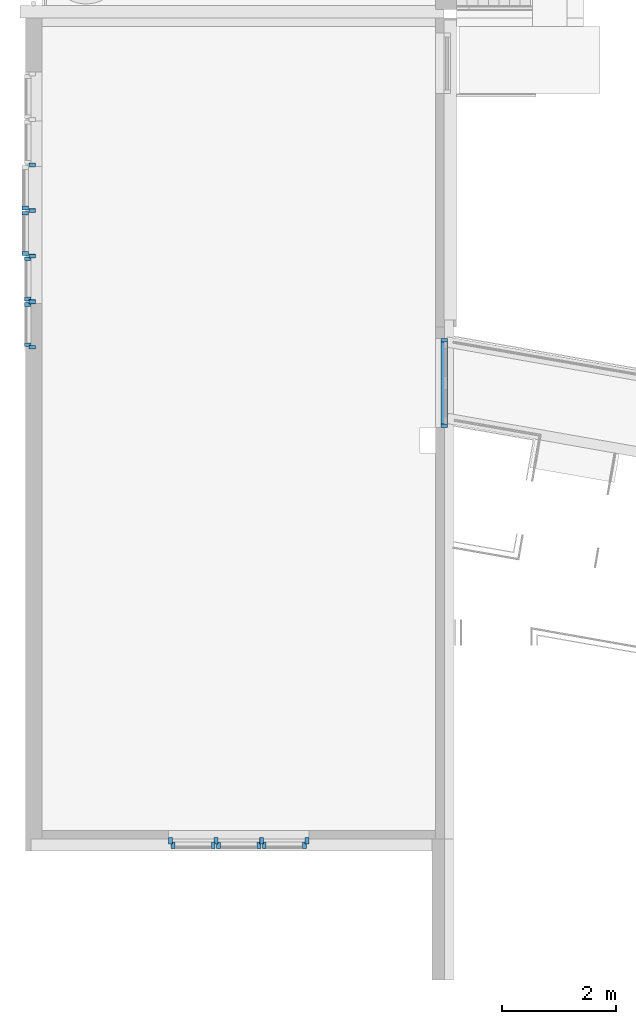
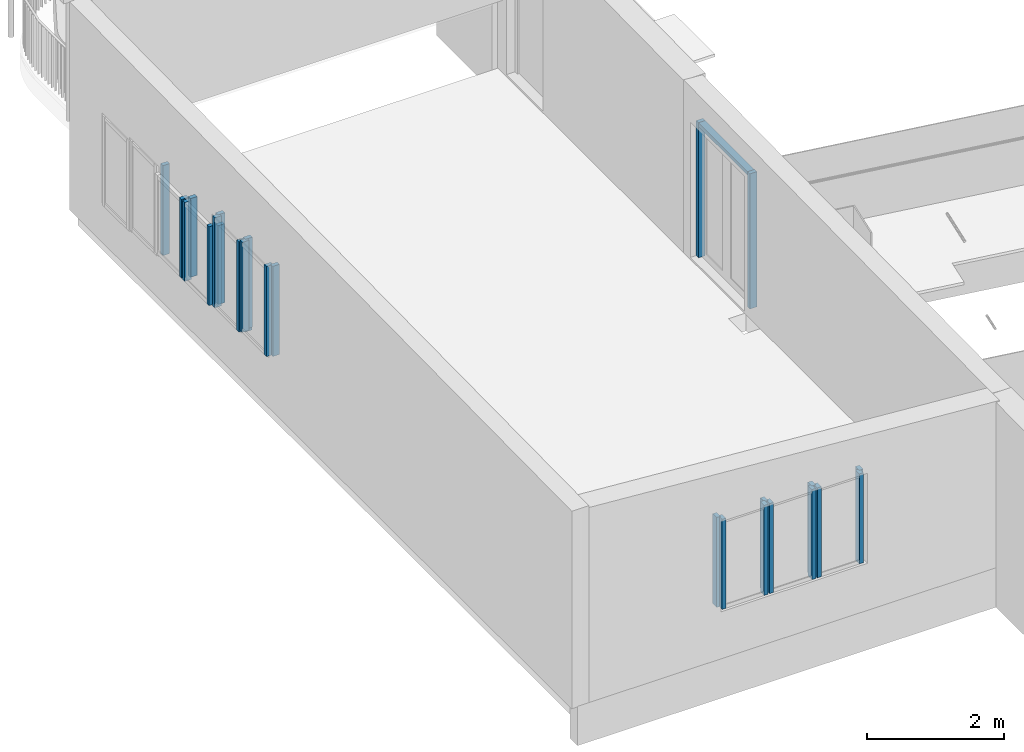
# One storey, part 1 of 9: 30 members, 16 elements without a shape of their own.
"""IFC2X3 building model written with IfcOpenShell, lengths in millimetres."""

import ifcopenshell
import ifcopenshell.guid

model = None  # the IFC model being written
_history = None  # IfcOwnerHistory: only IFC2X3 demands one
_inside = {}  # id of a spatial element -> (the spatial element, [elements in it])
_under = {}  # id of a project, library or spatial element -> (it, [spatial elements below it])
_declared = {}  # id of a project -> (the project, [libraries it declares])
_typed = {}  # id of a type object -> (the type object, [elements of that type])
_made_of = {}  # id of a material, layer set ... -> (it, [elements and type objects made of it])


def new_model(schema):
    """Start an empty IFC model of exactly this schema.

    Asked for "IFC4X3", IfcOpenShell would pick the latest addendum, in which some entities
    have other attributes; the version numbers below select the first issue.
    IFC2X3 requires an IfcOwnerHistory on every rooted entity: one is made here for all.
    """
    global model, _history
    if schema == "IFC4X3":
        model = ifcopenshell.file(schema_version=(4, 3, 0, 0))
    else:
        model = ifcopenshell.file(schema=schema)
    _inside.clear()
    _under.clear()
    _declared.clear()
    _typed.clear()
    _made_of.clear()
    _history = None
    if model.schema == "IFC2X3":
        org = make("IfcOrganization", Name="unknown")
        user = make(
            "IfcPersonAndOrganization",
            ThePerson=make("IfcPerson", FamilyName="unknown"),
            TheOrganization=org,
        )
        app = make(
            "IfcApplication",
            ApplicationDeveloper=org,
            Version="unknown",
            ApplicationFullName="unknown",
            ApplicationIdentifier="unknown",
        )
        _history = make(
            "IfcOwnerHistory",
            OwningUser=user,
            OwningApplication=app,
            ChangeAction="ADDED",
            CreationDate=0,
        )
    return model


def make(cls, **values):
    """One entity of the class cls with the attributes given. An attribute that is None is left unset."""
    return model.create_entity(
        cls, **{name: value for name, value in values.items() if value is not None}
    )


def entity(cls, *values):
    """Any entity or typed value of the class cls, its attributes in the order of the schema. None: left unset."""
    e = model.create_entity(cls)
    for i, value in enumerate(values):
        if value is not None:
            e[i] = value
    return e


def rooted(cls, **values):
    """An entity with a GlobalId (a new one), such as an element, a storey or a relation."""
    return make(cls, GlobalId=ifcopenshell.guid.new(), OwnerHistory=_history, **values)


def si_unit(unit_type, name, prefix=None):
    """IfcSIUnit, for example si_unit("LENGTHUNIT", "METRE", prefix="MILLI")."""
    return make("IfcSIUnit", UnitType=unit_type, Prefix=prefix, Name=name)


def converted_unit(unit_type, name, factor, base, dimensions=None, offset=None):
    """IfcConversionBasedUnit, such as the inch: factor (a typed value) times the base unit."""
    return make(
        "IfcConversionBasedUnit"
        if offset is None
        else "IfcConversionBasedUnitWithOffset",
        ConversionOffset=offset,
        Dimensions=None
        if dimensions is None
        else entity("IfcDimensionalExponents", *dimensions),
        UnitType=unit_type,
        Name=name,
        ConversionFactor=make(
            "IfcMeasureWithUnit", ValueComponent=factor, UnitComponent=base
        ),
    )


def derived_unit(unit_type, elements):
    """IfcDerivedUnit: a product of units, each with its exponent."""
    return make(
        "IfcDerivedUnit",
        Elements=[
            make("IfcDerivedUnitElement", Unit=unit, Exponent=power)
            for unit, power in elements
        ],
        UnitType=unit_type,
    )


def assignment(units):
    """IfcUnitAssignment: the units of a project."""
    return None if units is None else make("IfcUnitAssignment", Units=units)


def point(xyz):
    """IfcCartesianPoint."""
    return None if xyz is None else make("IfcCartesianPoint", Coordinates=xyz)


def direction(xyz):
    """IfcDirection."""
    return None if xyz is None else make("IfcDirection", DirectionRatios=xyz)


def frame(location, z_axis=None, x_axis=None):
    """IfcAxis2Placement3D, a coordinate frame: its origin and axes. An axis left out is left unset."""
    return make(
        "IfcAxis2Placement3D",
        Location=point(location),
        Axis=direction(z_axis),
        RefDirection=direction(x_axis),
    )


def frame_2d(location, x_axis=None):
    """IfcAxis2Placement2D, a coordinate frame in the plane: its origin and x axis."""
    return make(
        "IfcAxis2Placement2D", Location=point(location), RefDirection=direction(x_axis)
    )


def origin():
    """The frame at (0, 0, 0) with its axes left unset."""
    return frame((0.0, 0.0, 0.0))


def origin_2d_with_axis():
    """The frame at (0, 0) in the plane with the x axis (1, 0) written out."""
    return frame_2d((0.0, 0.0), x_axis=(1.0, 0.0))


def place(relative_to, where):
    """IfcLocalPlacement: puts the frame where relative to a parent placement (None: the world)."""
    return make(
        "IfcLocalPlacement", PlacementRelTo=relative_to, RelativePlacement=where
    )


def context(
    kind, dimensions, precision=None, world=None, true_north=None, identifier=None
):
    """IfcGeometricRepresentationContext, for example the 3D "Model" context."""
    return make(
        "IfcGeometricRepresentationContext",
        ContextIdentifier=identifier,
        ContextType=kind,
        CoordinateSpaceDimension=dimensions,
        Precision=precision,
        WorldCoordinateSystem=world,
        TrueNorth=true_north,
    )


def subcontext(parent, identifier, kind, view, scale=None):
    """IfcGeometricRepresentationSubContext, for example "Body" below "Model"."""
    return make(
        "IfcGeometricRepresentationSubContext",
        ContextIdentifier=identifier,
        ContextType=kind,
        ParentContext=parent,
        TargetScale=scale,
        TargetView=view,
    )


def project(units=None, contexts=None):
    """IfcProject with its units and contexts."""
    return rooted(
        "IfcProject",
        Name="project",
        RepresentationContexts=contexts,
        UnitsInContext=assignment(units),
    )


def spatial(cls, under=None, at=None, **own):
    """A site, building, storey or space (cls), placed at a placement, below another one or the project."""
    s = rooted(cls, ObjectPlacement=at, **own)
    if under is not None:
        _under.setdefault(under.id(), (under, []))[1].append(s)
    return s


def polyline(points):
    """IfcPolyline through the points."""
    return make("IfcPolyline", Points=[point(p) for p in points])


def profile(cls, at=None, kind="AREA", **sizes):
    """A parametric profile (cls). Its sizes go by their IFC names, for example OverallWidth=200.0."""
    return make(cls, ProfileType=kind, Position=at, **sizes)


def rectangle(**sizes):
    """IfcRectangleProfileDef."""
    return profile("IfcRectangleProfileDef", **sizes)


def outline(outer, holes=None, kind="AREA"):
    """IfcArbitraryClosedProfileDef: a profile drawn as a closed curve; with holes, ...WithVoids."""
    if holes is None:
        return make("IfcArbitraryClosedProfileDef", ProfileType=kind, OuterCurve=outer)
    return make(
        "IfcArbitraryProfileDefWithVoids",
        ProfileType=kind,
        OuterCurve=outer,
        InnerCurves=holes,
    )


def extrude(swept, where, along, depth):
    """IfcExtrudedAreaSolid: the profile swept, set in the frame where, extruded along a direction by depth."""
    return make(
        "IfcExtrudedAreaSolid",
        SweptArea=swept,
        Position=where,
        ExtrudedDirection=direction(along),
        Depth=depth,
    )


def shape(context_of_items, identifier, shape_type, items):
    """IfcShapeRepresentation: the items that make up one representation, for example the "Body"."""
    return make(
        "IfcShapeRepresentation",
        ContextOfItems=context_of_items,
        RepresentationIdentifier=identifier,
        RepresentationType=shape_type,
        Items=items,
    )


def source(mapping_origin, context_of_items, identifier, shape_type, items):
    """IfcRepresentationMap: a shape defined once, which mapped items show again and again."""
    return make(
        "IfcRepresentationMap",
        MappingOrigin=mapping_origin,
        MappedRepresentation=shape(context_of_items, identifier, shape_type, items),
    )


def transform(
    local_origin,
    x_axis=None,
    y_axis=None,
    z_axis=None,
    scale=None,
    scale2=None,
    scale3=None,
    uniform=True,
):
    """IfcCartesianTransformationOperator3D, or its non-uniform kind. x_axis, y_axis, z_axis: its Axis1, 2, 3."""
    if uniform:
        return make(
            "IfcCartesianTransformationOperator3D",
            Axis1=direction(x_axis),
            Axis2=direction(y_axis),
            LocalOrigin=point(local_origin),
            Scale=scale,
            Axis3=direction(z_axis),
        )
    return make(
        "IfcCartesianTransformationOperator3DnonUniform",
        Axis1=direction(x_axis),
        Axis2=direction(y_axis),
        LocalOrigin=point(local_origin),
        Scale=scale,
        Axis3=direction(z_axis),
        Scale2=scale2,
        Scale3=scale3,
    )


def mapped(mapping_source, mapping_target):
    """IfcMappedItem: shows the shape of a source again, moved by a transform."""
    return make(
        "IfcMappedItem", MappingSource=mapping_source, MappingTarget=mapping_target
    )


def material(Name=None, Category=None):
    """IfcMaterial."""
    return make("IfcMaterial", Name=Name, Category=Category)


def made_of(thing, what):
    """Note that an element or type object is made of a material, layer set ...; save() writes the relation."""
    if what is not None:
        _made_of.setdefault(what.id(), (what, []))[1].append(thing)
    return thing


def type_object(cls, material=None, **own):
    """A type object (cls), such as IfcWallType, which elements share."""
    return made_of(rooted(cls, **own), material)


def type_shapes(of_type, sources):
    """Give a type object the sources (RepresentationMaps) that its elements show as mapped items."""
    of_type.RepresentationMaps = sources


def element(
    cls,
    number,
    at=None,
    inside=None,
    cuts=None,
    type_object=None,
    material=None,
    context=None,
    identifier="Body",
    shape_type=None,
    held_by="IfcProductDefinitionShape",
    body=None,
    shapes=None,
    **own,
):
    """One element of the class cls, such as IfcWall. Its Tag is "e" and its number.

    at: its placement. inside: the storey or other place that contains it. cuts: it is an
    opening in that element (IfcRelVoidsElement). A single representation is given by context,
    identifier, shape_type and body (its items); several are given by shapes. held_by: the class
    of the entity that holds the representations. save() writes the other relations.
    """
    e = rooted(cls, Tag="e%d" % number, ObjectPlacement=at, **own)
    if body is not None:
        shapes = [shape(context, identifier, shape_type, body)]
    if shapes is not None:
        e.Representation = make(held_by, Representations=shapes)
    if inside is not None:
        _inside.setdefault(inside.id(), (inside, []))[1].append(e)
    if cuts is not None:
        rooted(
            "IfcRelVoidsElement", RelatingBuildingElement=cuts, RelatedOpeningElement=e
        )
    if type_object is not None:
        _typed.setdefault(type_object.id(), (type_object, []))[1].append(e)
    return made_of(e, material)


def aggregate(whole, parts):
    """IfcRelAggregates: a whole, such as a stair, and the parts it consists of."""
    return rooted("IfcRelAggregates", RelatingObject=whole, RelatedObjects=parts)


def save(model, path):
    """Write the relations noted so far, then the file.

    IfcRelAggregates (storeys below a building ...), IfcRelContainedInSpatialStructure (elements
    in a storey), IfcRelDefinesByType, IfcRelAssociatesMaterial and IfcRelDeclares: one each for
    every whole, place, type object, material and project.
    """
    for whole, parts in _under.values():
        aggregate(whole, parts)
    for where, things in _inside.values():
        rooted(
            "IfcRelContainedInSpatialStructure",
            RelatedElements=things,
            RelatingStructure=where,
        )
    for kind, things in _typed.values():
        rooted("IfcRelDefinesByType", RelatedObjects=things, RelatingType=kind)
    for what, things in _made_of.values():
        rooted("IfcRelAssociatesMaterial", RelatedObjects=things, RelatingMaterial=what)
    for by, libraries in _declared.values():
        rooted("IfcRelDeclares", RelatingContext=by, RelatedDefinitions=libraries)
    model.write(path)


model = new_model("IFC2X3")

# Units and contexts
model_context = context("Model", 3, precision=0.01, world=origin(), true_north=direction((6.12303176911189e-17, 1.0)))
body_context = subcontext(model_context, "Body", "Model", "MODEL_VIEW")
ifc_project = project(units=[si_unit("LENGTHUNIT", "METRE", prefix="MILLI"), si_unit("AREAUNIT", "SQUARE_METRE"), si_unit("VOLUMEUNIT", "CUBIC_METRE"), converted_unit("PLANEANGLEUNIT", "DEGREE", entity("IfcRatioMeasure", 0.0174532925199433), si_unit("PLANEANGLEUNIT", "RADIAN"), dimensions=[0, 0, 0, 0, 0, 0, 0]), si_unit("MASSUNIT", "GRAM", prefix="KILO"), derived_unit("MASSDENSITYUNIT", [(si_unit("MASSUNIT", "GRAM", prefix="KILO"), 1), (si_unit("LENGTHUNIT", "METRE"), -3)]), si_unit("TIMEUNIT", "SECOND"), si_unit("FREQUENCYUNIT", "HERTZ"), si_unit("THERMODYNAMICTEMPERATUREUNIT", "DEGREE_CELSIUS"), derived_unit("THERMALTRANSMITTANCEUNIT", [(si_unit("MASSUNIT", "GRAM", prefix="KILO"), 1), (si_unit("THERMODYNAMICTEMPERATUREUNIT", "KELVIN"), -1), (si_unit("TIMEUNIT", "SECOND"), -3)]), derived_unit("VOLUMETRICFLOWRATEUNIT", [(si_unit("LENGTHUNIT", "METRE"), 3), (si_unit("TIMEUNIT", "SECOND"), -1)]), si_unit("ELECTRICCURRENTUNIT", "AMPERE"), si_unit("ELECTRICVOLTAGEUNIT", "VOLT"), si_unit("POWERUNIT", "WATT"), si_unit("FORCEUNIT", "NEWTON", prefix="KILO"), si_unit("ILLUMINANCEUNIT", "LUX"), si_unit("LUMINOUSFLUXUNIT", "LUMEN"), si_unit("LUMINOUSINTENSITYUNIT", "CANDELA"), derived_unit("USERDEFINED", [(si_unit("MASSUNIT", "GRAM", prefix="KILO"), -1), (si_unit("LENGTHUNIT", "METRE"), -2), (si_unit("TIMEUNIT", "SECOND"), 3), (si_unit("LUMINOUSFLUXUNIT", "LUMEN"), 1)]), derived_unit("LINEARVELOCITYUNIT", [(si_unit("LENGTHUNIT", "METRE"), 1), (si_unit("TIMEUNIT", "SECOND"), -1)]), si_unit("PRESSUREUNIT", "PASCAL"), derived_unit("USERDEFINED", [(si_unit("LENGTHUNIT", "METRE"), -2), (si_unit("MASSUNIT", "GRAM", prefix="KILO"), 1), (si_unit("TIMEUNIT", "SECOND"), -2)])], contexts=[model_context])

# Site, building, storey
site_placement = place(None, origin())
site = spatial("IfcSite", under=ifc_project, at=site_placement, Name="<Kadaster Gemeente>;<Kadaster nummer>;<Kadaster sectie>", CompositionType="ELEMENT")
building_placement = place(site_placement, origin())
building = spatial("IfcBuilding", under=site, at=building_placement, Name="JRCZ Middelburg", CompositionType="ELEMENT")
storey_placement = place(building_placement, frame((0.0, 0.0, 3700.0)))
storey = spatial("IfcBuildingStorey", under=building, at=storey_placement, Name="02 tweede verdieping", CompositionType="ELEMENT", Elevation=3700.0)

# Curtain wall, members
curtain_wall_type_1 = type_object("IfcCurtainWallType", Name="Curtain Wall:NLRS_32_CW_Ontwerpkozijn 067x114 binnen", PredefinedType="NOTDEFINED")
curtain_wall_1_placement = place(storey_placement, frame((0.0, 0.0, -3700.0)))
curtain_wall_1 = element("IfcCurtainWall", 1, at=curtain_wall_1_placement, inside=storey, type_object=curtain_wall_type_1, Name="Curtain Wall:NLRS_32_CW_Ontwerpkozijn 067x114 binnen", ObjectType="Curtain Wall:NLRS_32_CW_Ontwerpkozijn 067x114 binnen")
ifc_material_1 = material(Name="RBM_i2_binnenkozijn")
member_type_1 = type_object("IfcMemberType", Name="32_CWM_067x114", PredefinedType="MEMBER")
shared_shape_1 = source(origin(), body_context, "Body", "SweptSolid", [
    extrude(rectangle(XDim=113.999999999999, YDim=67.0, at=origin_2d_with_axis()), frame((-33.5, 0.0, -2400.0), z_axis=(0.0, 0.0, 1.0), x_axis=(0.0, -1.0, 0.0)), (0.0, 0.0, 1.0), 2400.0),
])
type_shapes(member_type_1, [shared_shape_1])
member_1_placement = place(storey_placement, frame((17203.0, 17215.0893841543, 0.0), z_axis=(0.0, 0.0, -1.0), x_axis=(0.0, -1.0, 0.0)))
member_1 = element("IfcMember", 2, at=member_1_placement, type_object=member_type_1, material=ifc_material_1, Name="Rectangular Mullion:32_CWM_067x114", ObjectType="Rectangular Mullion:32_CWM_067x114", context=body_context, shape_type="MappedRepresentation", body=[
    mapped(shared_shape_1, transform((0.0, 0.0, 0.0), scale=1.0)),
])
member_type_2 = type_object("IfcMemberType", Name="32_CWM_067x114", PredefinedType="MEMBER")
shared_shape_2 = source(origin(), body_context, "Body", "SweptSolid", [
    extrude(rectangle(XDim=113.999999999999, YDim=67.0, at=origin_2d_with_axis()), frame((-33.5, 0.0, -2400.0), z_axis=(0.0, 0.0, 1.0), x_axis=(0.0, -1.0, 0.0)), (0.0, 0.0, 1.0), 2400.0),
])
type_shapes(member_type_2, [shared_shape_2])
member_2_placement = place(storey_placement, frame((17203.0, 18782.0893841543, 2400.0), z_axis=(0.0, 0.0, 1.0), x_axis=(0.0, 1.0, 0.0)))
member_2 = element("IfcMember", 3, at=member_2_placement, type_object=member_type_2, material=ifc_material_1, Name="Rectangular Mullion:32_CWM_067x114", ObjectType="Rectangular Mullion:32_CWM_067x114", context=body_context, shape_type="MappedRepresentation", body=[
    mapped(shared_shape_2, transform((0.0, 0.0, 0.0), scale=1.0)),
])
member_type_3 = type_object("IfcMemberType", Name="32_CWM_067x114", PredefinedType="MEMBER")
shared_shape_3 = source(origin(), body_context, "Body", "SweptSolid", [
    extrude(rectangle(XDim=113.999999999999, YDim=67.0, at=origin_2d_with_axis()), frame((-33.5, 0.0, -1433.0), z_axis=(0.0, 0.0, 1.0), x_axis=(0.0, -1.0, 0.0)), (0.0, 0.0, 1.0), 1433.0),
])
type_shapes(member_type_3, [shared_shape_3])
member_3_placement = place(storey_placement, frame((17203.0, 17282.0893841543, 2400.0), z_axis=(0.0, -1.0, 0.0), x_axis=(0.0, 0.0, 1.0)))
member_3 = element("IfcMember", 4, at=member_3_placement, type_object=member_type_3, material=ifc_material_1, Name="Rectangular Mullion:32_CWM_067x114", ObjectType="Rectangular Mullion:32_CWM_067x114", context=body_context, shape_type="MappedRepresentation", body=[
    mapped(shared_shape_3, transform((0.0, 0.0, 0.0), scale=1.0)),
])
aggregate(curtain_wall_1, [member_1, member_2, member_3])

# Curtain wall, member
curtain_wall_type_2 = type_object("IfcCurtainWallType", PredefinedType="NOTDEFINED")
curtain_wall_2_placement = place(storey_placement, frame((0.0, 0.0, -3700.0)))
curtain_wall_2 = element("IfcCurtainWall", 5, at=curtain_wall_2_placement, inside=storey, type_object=curtain_wall_type_2)
member_type_4 = type_object("IfcMemberType", Name="32_CWM_067x114", PredefinedType="MEMBER")
shared_shape_4 = source(origin(), body_context, "Body", "SweptSolid", [
    extrude(rectangle(XDim=67.0000000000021, YDim=114.0, at=origin_2d_with_axis()), frame((9980.0, 21824.8639489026, 4400.0), z_axis=(0.0, 0.0, 1.0), x_axis=(0.0, -1.0, 0.0)), (0.0, 0.0, 1.0), 1600.0),
])
type_shapes(member_type_4, [shared_shape_4])
member_4_placement = place(storey_placement, frame((0.0, 0.0, -3700.0)))
member_4 = element("IfcMember", 6, at=member_4_placement, type_object=member_type_4, material=ifc_material_1, Name="Rectangular Mullion:32_CWM_067x114", ObjectType="Rectangular Mullion:32_CWM_067x114", context=body_context, shape_type="MappedRepresentation", body=[
    mapped(shared_shape_4, transform((0.0, 0.0, 0.0), scale=1.0)),
])
aggregate(curtain_wall_2, [member_4])

curtain_wall_3_placement = place(storey_placement, frame((0.0, 0.0, -3700.0)))
curtain_wall_3 = element("IfcCurtainWall", 7, at=curtain_wall_3_placement, inside=storey, type_object=curtain_wall_type_2)
member_type_5 = type_object("IfcMemberType", Name="32_CWM_067x114", PredefinedType="MEMBER")
shared_shape_5 = source(origin(), body_context, "Body", "SweptSolid", [
    extrude(rectangle(XDim=67.0000000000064, YDim=114.0, at=frame_2d((0.0, 1.08002495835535e-12), x_axis=(1.0, 0.0))), frame((9980.0, 21024.8639489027, 4500.0), z_axis=(0.0, 0.0, 1.0), x_axis=(0.0, -1.0, 0.0)), (0.0, 0.0, 1.0), 1400.0),
])
type_shapes(member_type_5, [shared_shape_5])
member_5_placement = place(storey_placement, frame((0.0, 0.0, -3700.0)))
member_5 = element("IfcMember", 8, at=member_5_placement, type_object=member_type_5, material=ifc_material_1, Name="Rectangular Mullion:32_CWM_067x114", ObjectType="Rectangular Mullion:32_CWM_067x114", context=body_context, shape_type="MappedRepresentation", body=[
    mapped(shared_shape_5, transform((0.0, 0.0, 0.0), scale=1.0)),
])
aggregate(curtain_wall_3, [member_5])

curtain_wall_type_3 = type_object("IfcCurtainWallType", Name="Curtain Wall:NLRS_31_CW_Ontwerpkozijn 067x114 2", PredefinedType="NOTDEFINED")
curtain_wall_4_placement = place(storey_placement, frame((0.0, 0.0, -3700.0)))
curtain_wall_4 = element("IfcCurtainWall", 9, at=curtain_wall_4_placement, inside=storey, type_object=curtain_wall_type_3, Name="Curtain Wall:NLRS_31_CW_Ontwerpkozijn 067x114 2", ObjectType="Curtain Wall:NLRS_31_CW_Ontwerpkozijn 067x114 2")
ifc_material_2 = material(Name="RBM_a_kozijn")
member_type_6 = type_object("IfcMemberType", Name="31_CWM_067x114", PredefinedType="MEMBER")
shared_shape_6 = source(origin(), body_context, "Body", "SweptSolid", [
    extrude(rectangle(XDim=67.0000000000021, YDim=114.0, at=frame_2d((2.16360263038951e-12, -1.08002495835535e-12), x_axis=(1.0, 0.0))), frame((9858.0, 21068.8639489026, 4500.0), z_axis=(0.0, 0.0, 1.0), x_axis=(0.0, -1.0, 0.0)), (0.0, 0.0, 1.0), 1400.0),
])
type_shapes(member_type_6, [shared_shape_6])
member_6_placement = place(storey_placement, frame((0.0, 0.0, -3700.0)))
member_6 = element("IfcMember", 10, at=member_6_placement, type_object=member_type_6, material=ifc_material_2, Name="Rectangular Mullion:31_CWM_067x114", ObjectType="Rectangular Mullion:31_CWM_067x114", context=body_context, shape_type="MappedRepresentation", body=[
    mapped(shared_shape_6, transform((0.0, 0.0, 0.0), scale=1.0)),
])
aggregate(curtain_wall_4, [member_6])

# Curtain wall, members
curtain_wall_5_placement = place(storey_placement, frame((0.0, 0.0, -3700.0)))
curtain_wall_5 = element("IfcCurtainWall", 11, at=curtain_wall_5_placement, inside=storey, type_object=curtain_wall_type_2)
member_type_7 = type_object("IfcMemberType", Name="32_CWM_067x114", PredefinedType="MEMBER")
shared_shape_7 = source(origin(), body_context, "Body", "SweptSolid", [
    extrude(rectangle(XDim=67.0000000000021, YDim=114.0, at=frame_2d((0.0, 1.08002495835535e-12), x_axis=(1.0, 0.0))), frame((9980.0, 21020.8639489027, 4500.0), z_axis=(0.0, 0.0, 1.0), x_axis=(0.0, -1.0, 0.0)), (0.0, 0.0, 1.0), 1400.0),
])
type_shapes(member_type_7, [shared_shape_7])
member_7_placement = place(storey_placement, frame((0.0, 0.0, -3700.0)))
member_7 = element("IfcMember", 12, at=member_7_placement, type_object=member_type_7, material=ifc_material_1, Name="Rectangular Mullion:32_CWM_067x114", ObjectType="Rectangular Mullion:32_CWM_067x114", context=body_context, shape_type="MappedRepresentation", body=[
    mapped(shared_shape_7, transform((0.0, 0.0, 0.0), scale=1.0)),
])
member_type_8 = type_object("IfcMemberType", Name="32_CWM_067x114", PredefinedType="MEMBER")
shared_shape_8 = source(origin(), body_context, "Body", "SweptSolid", [
    extrude(rectangle(XDim=67.0000000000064, YDim=114.0, at=frame_2d((0.0, 1.08002495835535e-12), x_axis=(1.0, 0.0))), frame((9980.0, 20224.8639489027, 4500.0), z_axis=(0.0, 0.0, 1.0), x_axis=(0.0, -1.0, 0.0)), (0.0, 0.0, 1.0), 1400.0),
])
type_shapes(member_type_8, [shared_shape_8])
member_8_placement = place(storey_placement, frame((0.0, 0.0, -3700.0)))
member_8 = element("IfcMember", 13, at=member_8_placement, type_object=member_type_8, material=ifc_material_1, Name="Rectangular Mullion:32_CWM_067x114", ObjectType="Rectangular Mullion:32_CWM_067x114", context=body_context, shape_type="MappedRepresentation", body=[
    mapped(shared_shape_8, transform((0.0, 0.0, 0.0), scale=1.0)),
])
aggregate(curtain_wall_5, [member_7, member_8])

curtain_wall_6_placement = place(storey_placement, frame((0.0, 0.0, -3700.0)))
curtain_wall_6 = element("IfcCurtainWall", 14, at=curtain_wall_6_placement, inside=storey, type_object=curtain_wall_type_3, Name="Curtain Wall:NLRS_31_CW_Ontwerpkozijn 067x114 2", ObjectType="Curtain Wall:NLRS_31_CW_Ontwerpkozijn 067x114 2")
member_type_9 = type_object("IfcMemberType", Name="31_CWM_067x114", PredefinedType="MEMBER")
shared_shape_9 = source(origin(), body_context, "Body", "SweptSolid", [
    extrude(rectangle(XDim=67.0000000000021, YDim=114.0, at=frame_2d((2.16360263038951e-12, -1.08002495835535e-12), x_axis=(1.0, 0.0))), frame((9858.0, 20268.8639489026, 4500.0), z_axis=(0.0, 0.0, 1.0), x_axis=(0.0, -1.0, 0.0)), (0.0, 0.0, 1.0), 1400.0),
])
type_shapes(member_type_9, [shared_shape_9])
member_9_placement = place(storey_placement, frame((0.0, 0.0, -3700.0)))
member_9 = element("IfcMember", 15, at=member_9_placement, type_object=member_type_9, material=ifc_material_2, Name="Rectangular Mullion:31_CWM_067x114", ObjectType="Rectangular Mullion:31_CWM_067x114", context=body_context, shape_type="MappedRepresentation", body=[
    mapped(shared_shape_9, transform((0.0, 0.0, 0.0), scale=1.0)),
])
member_type_10 = type_object("IfcMemberType", Name="31_CWM_067x114", PredefinedType="MEMBER")
shared_shape_10 = source(origin(), body_context, "Body", "SweptSolid", [
    extrude(rectangle(XDim=67.0000000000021, YDim=114.0, at=frame_2d((2.16360263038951e-12, 1.08002495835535e-12), x_axis=(1.0, 0.0))), frame((9858.0, 20976.8639489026, 4500.0), z_axis=(0.0, 0.0, 1.0), x_axis=(0.0, -1.0, 0.0)), (0.0, 0.0, 1.0), 1400.0),
])
type_shapes(member_type_10, [shared_shape_10])
member_10_placement = place(storey_placement, frame((0.0, 0.0, -3700.0)))
member_10 = element("IfcMember", 16, at=member_10_placement, type_object=member_type_10, material=ifc_material_2, Name="Rectangular Mullion:31_CWM_067x114", ObjectType="Rectangular Mullion:31_CWM_067x114", context=body_context, shape_type="MappedRepresentation", body=[
    mapped(shared_shape_10, transform((0.0, 0.0, 0.0), scale=1.0)),
])
aggregate(curtain_wall_6, [member_9, member_10])

curtain_wall_7_placement = place(storey_placement, frame((0.0, 0.0, -3700.0)))
curtain_wall_7 = element("IfcCurtainWall", 17, at=curtain_wall_7_placement, inside=storey, type_object=curtain_wall_type_2)
member_type_11 = type_object("IfcMemberType", Name="32_CWM_067x114", PredefinedType="MEMBER")
shared_shape_11 = source(origin(), body_context, "Body", "SweptSolid", [
    extrude(rectangle(XDim=67.0000000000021, YDim=114.0, at=origin_2d_with_axis()), frame((9980.0, 20220.8639489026, 4500.0), z_axis=(0.0, 0.0, 1.0), x_axis=(0.0, -1.0, 0.0)), (0.0, 0.0, 1.0), 1600.0),
])
type_shapes(member_type_11, [shared_shape_11])
member_11_placement = place(storey_placement, frame((0.0, 0.0, -3700.0)))
member_11 = element("IfcMember", 18, at=member_11_placement, type_object=member_type_11, material=ifc_material_1, Name="Rectangular Mullion:32_CWM_067x114", ObjectType="Rectangular Mullion:32_CWM_067x114", context=body_context, shape_type="MappedRepresentation", body=[
    mapped(shared_shape_11, transform((0.0, 0.0, 0.0), scale=1.0)),
])
member_type_12 = type_object("IfcMemberType", Name="32_CWM_067x114", PredefinedType="MEMBER")
shared_shape_12 = source(origin(), body_context, "Body", "SweptSolid", [
    extrude(rectangle(XDim=67.0000000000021, YDim=114.0, at=frame_2d((-1.08357767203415e-12, 0.0), x_axis=(1.0, 0.0))), frame((9980.0, 19424.8639489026, 4500.0), z_axis=(0.0, 0.0, 1.0), x_axis=(0.0, -1.0, 0.0)), (0.0, 0.0, 1.0), 1600.0),
])
type_shapes(member_type_12, [shared_shape_12])
member_12_placement = place(storey_placement, frame((0.0, 0.0, -3700.0)))
member_12 = element("IfcMember", 19, at=member_12_placement, type_object=member_type_12, material=ifc_material_1, Name="Rectangular Mullion:32_CWM_067x114", ObjectType="Rectangular Mullion:32_CWM_067x114", context=body_context, shape_type="MappedRepresentation", body=[
    mapped(shared_shape_12, transform((0.0, 0.0, 0.0), scale=1.0)),
])
aggregate(curtain_wall_7, [member_11, member_12])

curtain_wall_8_placement = place(storey_placement, frame((0.0, 0.0, -3700.0)))
curtain_wall_8 = element("IfcCurtainWall", 20, at=curtain_wall_8_placement, inside=storey, type_object=curtain_wall_type_3, Name="Curtain Wall:NLRS_31_CW_Ontwerpkozijn 067x114 2", ObjectType="Curtain Wall:NLRS_31_CW_Ontwerpkozijn 067x114 2")
member_type_13 = type_object("IfcMemberType", Name="31_CWM_067x114", PredefinedType="MEMBER")
shared_shape_13 = source(origin(), body_context, "Body", "SweptSolid", [
    extrude(outline(polyline([(-37.0, -65.3333333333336), (30.0, -65.3333333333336), (30.0, 16.666666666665), (7.0, 16.666666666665), (7.0, 48.6666666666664), (-37.0, 48.6666666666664), (-37.0, -65.3333333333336)])), frame((9906.33333333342, 19465.3639489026, 4500.0), z_axis=(0.0, 0.0, 1.0), x_axis=(0.0, -1.0, 0.0)), (0.0, 0.0, 1.0), 1600.0),
])
type_shapes(member_type_13, [shared_shape_13])
member_13_placement = place(storey_placement, frame((0.0, 0.0, -3700.0)))
member_13 = element("IfcMember", 21, at=member_13_placement, type_object=member_type_13, material=ifc_material_2, Name="Rectangular Mullion:31_CWM_067x114", ObjectType="Rectangular Mullion:31_CWM_067x114", context=body_context, shape_type="MappedRepresentation", body=[
    mapped(shared_shape_13, transform((0.0, 0.0, 0.0), scale=1.0)),
])
member_type_14 = type_object("IfcMemberType", Name="31_CWM_067x114", PredefinedType="MEMBER")
shared_shape_14 = source(origin(), body_context, "Body", "SweptSolid", [
    extrude(outline(polyline([(-30.0, -65.3333333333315), (37.0, -65.3333333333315), (37.0, 48.6666666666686), (-7.0, 48.6666666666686), (-7.0, 16.6666666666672), (-30.0, 16.6666666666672), (-30.0, -65.3333333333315)])), frame((9906.33333333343, 20180.3639489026, 4500.0), z_axis=(0.0, 0.0, 1.0), x_axis=(0.0, -1.0, 0.0)), (0.0, 0.0, 1.0), 1600.0),
])
type_shapes(member_type_14, [shared_shape_14])
member_14_placement = place(storey_placement, frame((0.0, 0.0, -3700.0)))
member_14 = element("IfcMember", 22, at=member_14_placement, type_object=member_type_14, material=ifc_material_2, Name="Rectangular Mullion:31_CWM_067x114", ObjectType="Rectangular Mullion:31_CWM_067x114", context=body_context, shape_type="MappedRepresentation", body=[
    mapped(shared_shape_14, transform((0.0, 0.0, 0.0), scale=1.0)),
])
aggregate(curtain_wall_8, [member_13, member_14])

curtain_wall_9_placement = place(storey_placement, frame((0.0, 0.0, -3700.0)))
curtain_wall_9 = element("IfcCurtainWall", 23, at=curtain_wall_9_placement, inside=storey, type_object=curtain_wall_type_2)
member_type_15 = type_object("IfcMemberType", Name="32_CWM_067x114", PredefinedType="MEMBER")
shared_shape_15 = source(origin(), body_context, "Body", "SweptSolid", [
    extrude(rectangle(XDim=66.9999999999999, YDim=114.0, at=frame_2d((-1.08002495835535e-12, 0.0), x_axis=(1.0, 0.0))), frame((9980.0, 19420.8639489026, 4550.0), z_axis=(0.0, 0.0, 1.0), x_axis=(0.0, -1.0, 0.0)), (0.0, 0.0, 1.0), 1600.0),
])
type_shapes(member_type_15, [shared_shape_15])
member_15_placement = place(storey_placement, frame((0.0, 0.0, -3700.0)))
member_15 = element("IfcMember", 24, at=member_15_placement, type_object=member_type_15, material=ifc_material_1, Name="Rectangular Mullion:32_CWM_067x114", ObjectType="Rectangular Mullion:32_CWM_067x114", context=body_context, shape_type="MappedRepresentation", body=[
    mapped(shared_shape_15, transform((0.0, 0.0, 0.0), scale=1.0)),
])
member_type_16 = type_object("IfcMemberType", Name="32_CWM_067x114", PredefinedType="MEMBER")
shared_shape_16 = source(origin(), body_context, "Body", "SweptSolid", [
    extrude(rectangle(XDim=67.0000000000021, YDim=114.0, at=frame_2d((-1.08357767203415e-12, 0.0), x_axis=(1.0, 0.0))), frame((9980.0, 18624.8639489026, 4550.0), z_axis=(0.0, 0.0, 1.0), x_axis=(0.0, -1.0, 0.0)), (0.0, 0.0, 1.0), 1600.0),
])
type_shapes(member_type_16, [shared_shape_16])
member_16_placement = place(storey_placement, frame((0.0, 0.0, -3700.0)))
member_16 = element("IfcMember", 25, at=member_16_placement, type_object=member_type_16, material=ifc_material_1, Name="Rectangular Mullion:32_CWM_067x114", ObjectType="Rectangular Mullion:32_CWM_067x114", context=body_context, shape_type="MappedRepresentation", body=[
    mapped(shared_shape_16, transform((0.0, 0.0, 0.0), scale=1.0)),
])
aggregate(curtain_wall_9, [member_15, member_16])

curtain_wall_10_placement = place(storey_placement, frame((0.0, 0.0, -3700.0)))
curtain_wall_10 = element("IfcCurtainWall", 26, at=curtain_wall_10_placement, inside=storey, type_object=curtain_wall_type_3, Name="Curtain Wall:NLRS_31_CW_Ontwerpkozijn 067x114 2", ObjectType="Curtain Wall:NLRS_31_CW_Ontwerpkozijn 067x114 2")
member_type_17 = type_object("IfcMemberType", Name="31_CWM_067x114", PredefinedType="MEMBER")
shared_shape_17 = source(origin(), body_context, "Body", "SweptSolid", [
    extrude(outline(polyline([(-37.0, -65.333333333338), (30.0, -65.333333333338), (30.0, 16.666666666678), (7.0, 16.666666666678), (7.0, 48.6666666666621), (-37.0, 48.6666666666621), (-37.0, -65.333333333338)])), frame((9906.33333333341, 18665.3639489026, 4550.0), z_axis=(0.0, 0.0, 1.0), x_axis=(0.0, -1.0, 0.0)), (0.0, 0.0, 1.0), 1600.0),
])
type_shapes(member_type_17, [shared_shape_17])
member_17_placement = place(storey_placement, frame((0.0, 0.0, -3700.0)))
member_17 = element("IfcMember", 27, at=member_17_placement, type_object=member_type_17, material=ifc_material_2, Name="Rectangular Mullion:31_CWM_067x114", ObjectType="Rectangular Mullion:31_CWM_067x114", context=body_context, shape_type="MappedRepresentation", body=[
    mapped(shared_shape_17, transform((0.0, 0.0, 0.0), scale=1.0)),
])
member_type_18 = type_object("IfcMemberType", Name="31_CWM_067x114", PredefinedType="MEMBER")
shared_shape_18 = source(origin(), body_context, "Body", "SweptSolid", [
    extrude(outline(polyline([(-30.0, -65.333333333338), (37.0, -65.333333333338), (37.0, 48.6666666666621), (-7.0, 48.6666666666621), (-7.0, 16.666666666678), (-30.0, 16.666666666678), (-30.0, -65.333333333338)])), frame((9906.33333333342, 19380.3639489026, 4550.0), z_axis=(0.0, 0.0, 1.0), x_axis=(0.0, -1.0, 0.0)), (0.0, 0.0, 1.0), 1600.0),
])
type_shapes(member_type_18, [shared_shape_18])
member_18_placement = place(storey_placement, frame((0.0, 0.0, -3700.0)))
member_18 = element("IfcMember", 28, at=member_18_placement, type_object=member_type_18, material=ifc_material_2, Name="Rectangular Mullion:31_CWM_067x114", ObjectType="Rectangular Mullion:31_CWM_067x114", context=body_context, shape_type="MappedRepresentation", body=[
    mapped(shared_shape_18, transform((0.0, 0.0, 0.0), scale=1.0)),
])
aggregate(curtain_wall_10, [member_17, member_18])

curtain_wall_11_placement = place(storey_placement, frame((0.0, 0.0, -3700.0)))
curtain_wall_11 = element("IfcCurtainWall", 29, at=curtain_wall_11_placement, inside=storey, type_object=curtain_wall_type_2)
member_type_19 = type_object("IfcMemberType", Name="32_CWM_067x114", PredefinedType="MEMBER")
shared_shape_19 = source(origin(), body_context, "Body", "SweptSolid", [
    extrude(rectangle(XDim=114.0, YDim=66.9999999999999, at=frame_2d((0.0, 1.08002495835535e-12), x_axis=(1.0, 0.0))), frame((14002.0, 9967.0, 4500.0), z_axis=(0.0, 0.0, 1.0), x_axis=(0.0, -1.0, 0.0)), (0.0, 0.0, 1.0), 1600.0),
])
type_shapes(member_type_19, [shared_shape_19])
member_19_placement = place(storey_placement, frame((0.0, 0.0, -3700.0)))
member_19 = element("IfcMember", 30, at=member_19_placement, type_object=member_type_19, material=ifc_material_1, Name="Rectangular Mullion:32_CWM_067x114", ObjectType="Rectangular Mullion:32_CWM_067x114", context=body_context, shape_type="MappedRepresentation", body=[
    mapped(shared_shape_19, transform((0.0, 0.0, 0.0), scale=1.0)),
])
member_type_20 = type_object("IfcMemberType", Name="32_CWM_067x114", PredefinedType="MEMBER")
shared_shape_20 = source(origin(), body_context, "Body", "SweptSolid", [
    extrude(rectangle(XDim=114.0, YDim=66.9999999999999, at=frame_2d((0.0, 1.08002495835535e-12), x_axis=(1.0, 0.0))), frame((14798.0, 9967.0, 4500.0), z_axis=(0.0, 0.0, 1.0), x_axis=(0.0, -1.0, 0.0)), (0.0, 0.0, 1.0), 1600.0),
])
type_shapes(member_type_20, [shared_shape_20])
member_20_placement = place(storey_placement, frame((0.0, 0.0, -3700.0)))
member_20 = element("IfcMember", 31, at=member_20_placement, type_object=member_type_20, material=ifc_material_1, Name="Rectangular Mullion:32_CWM_067x114", ObjectType="Rectangular Mullion:32_CWM_067x114", context=body_context, shape_type="MappedRepresentation", body=[
    mapped(shared_shape_20, transform((0.0, 0.0, 0.0), scale=1.0)),
])
aggregate(curtain_wall_11, [member_19, member_20])

curtain_wall_12_placement = place(storey_placement, frame((0.0, 0.0, -3700.0)))
curtain_wall_12 = element("IfcCurtainWall", 32, at=curtain_wall_12_placement, inside=storey, type_object=curtain_wall_type_3, Name="Curtain Wall:NLRS_31_CW_Ontwerpkozijn 067x114 2", ObjectType="Curtain Wall:NLRS_31_CW_Ontwerpkozijn 067x114 2")
member_type_21 = type_object("IfcMemberType", Name="31_CWM_067x114", PredefinedType="MEMBER")
shared_shape_21 = source(origin(), body_context, "Body", "SweptSolid", [
    extrude(outline(polyline([(-48.6666666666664, -37.0), (65.3333333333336, -37.0), (65.3333333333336, 30.0), (-16.6666666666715, 30.0), (-16.6666666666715, 7.0), (-48.6666666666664, 7.0), (-48.6666666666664, -37.0)])), frame((14757.5000000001, 9893.33333333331, 4500.0), z_axis=(0.0, 0.0, 1.0), x_axis=(0.0, -1.0, 0.0)), (0.0, 0.0, 1.0), 1600.0),
])
type_shapes(member_type_21, [shared_shape_21])
member_21_placement = place(storey_placement, frame((0.0, 0.0, -3700.0)))
member_21 = element("IfcMember", 33, at=member_21_placement, type_object=member_type_21, material=ifc_material_2, Name="Rectangular Mullion:31_CWM_067x114", ObjectType="Rectangular Mullion:31_CWM_067x114", context=body_context, shape_type="MappedRepresentation", body=[
    mapped(shared_shape_21, transform((0.0, 0.0, 0.0), scale=1.0)),
])
member_type_22 = type_object("IfcMemberType", Name="31_CWM_067x114", PredefinedType="MEMBER")
shared_shape_22 = source(origin(), body_context, "Body", "SweptSolid", [
    extrude(outline(polyline([(-16.6666666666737, -30.0), (65.3333333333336, -30.0), (65.3333333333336, 37.0), (-48.6666666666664, 37.0), (-48.6666666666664, -7.0), (-16.6666666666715, -7.0), (-16.6666666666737, -30.0)])), frame((14042.5000000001, 9893.33333333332, 4500.0), z_axis=(0.0, 0.0, 1.0), x_axis=(0.0, -1.0, 0.0)), (0.0, 0.0, 1.0), 1600.0),
])
type_shapes(member_type_22, [shared_shape_22])
member_22_placement = place(storey_placement, frame((0.0, 0.0, -3700.0)))
member_22 = element("IfcMember", 34, at=member_22_placement, type_object=member_type_22, material=ifc_material_2, Name="Rectangular Mullion:31_CWM_067x114", ObjectType="Rectangular Mullion:31_CWM_067x114", context=body_context, shape_type="MappedRepresentation", body=[
    mapped(shared_shape_22, transform((0.0, 0.0, 0.0), scale=1.0)),
])
aggregate(curtain_wall_12, [member_21, member_22])

curtain_wall_13_placement = place(storey_placement, frame((0.0, 0.0, -3700.0)))
curtain_wall_13 = element("IfcCurtainWall", 35, at=curtain_wall_13_placement, inside=storey, type_object=curtain_wall_type_2)
member_type_23 = type_object("IfcMemberType", Name="32_CWM_067x114", PredefinedType="MEMBER")
shared_shape_23 = source(origin(), body_context, "Body", "SweptSolid", [
    extrude(rectangle(XDim=114.0, YDim=66.9999999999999, at=frame_2d((0.0, 1.08002495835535e-12), x_axis=(1.0, 0.0))), frame((13202.0, 9967.0, 4500.0), z_axis=(0.0, 0.0, 1.0), x_axis=(0.0, -1.0, 0.0)), (0.0, 0.0, 1.0), 1600.0),
])
type_shapes(member_type_23, [shared_shape_23])
member_23_placement = place(storey_placement, frame((0.0, 0.0, -3700.0)))
member_23 = element("IfcMember", 36, at=member_23_placement, type_object=member_type_23, material=ifc_material_1, Name="Rectangular Mullion:32_CWM_067x114", ObjectType="Rectangular Mullion:32_CWM_067x114", context=body_context, shape_type="MappedRepresentation", body=[
    mapped(shared_shape_23, transform((0.0, 0.0, 0.0), scale=1.0)),
])
member_type_24 = type_object("IfcMemberType", Name="32_CWM_067x114", PredefinedType="MEMBER")
shared_shape_24 = source(origin(), body_context, "Body", "SweptSolid", [
    extrude(rectangle(XDim=114.0, YDim=66.9999999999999, at=frame_2d((0.0, 1.08002495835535e-12), x_axis=(1.0, 0.0))), frame((13998.0, 9967.0, 4500.0), z_axis=(0.0, 0.0, 1.0), x_axis=(0.0, -1.0, 0.0)), (0.0, 0.0, 1.0), 1600.0),
])
type_shapes(member_type_24, [shared_shape_24])
member_24_placement = place(storey_placement, frame((0.0, 0.0, -3700.0)))
member_24 = element("IfcMember", 37, at=member_24_placement, type_object=member_type_24, material=ifc_material_1, Name="Rectangular Mullion:32_CWM_067x114", ObjectType="Rectangular Mullion:32_CWM_067x114", context=body_context, shape_type="MappedRepresentation", body=[
    mapped(shared_shape_24, transform((0.0, 0.0, 0.0), scale=1.0)),
])
aggregate(curtain_wall_13, [member_23, member_24])

curtain_wall_14_placement = place(storey_placement, frame((0.0, 0.0, -3700.0)))
curtain_wall_14 = element("IfcCurtainWall", 38, at=curtain_wall_14_placement, inside=storey, type_object=curtain_wall_type_3, Name="Curtain Wall:NLRS_31_CW_Ontwerpkozijn 067x114 2", ObjectType="Curtain Wall:NLRS_31_CW_Ontwerpkozijn 067x114 2")
member_type_25 = type_object("IfcMemberType", Name="31_CWM_067x114", PredefinedType="MEMBER")
shared_shape_25 = source(origin(), body_context, "Body", "SweptSolid", [
    extrude(outline(polyline([(-48.6666666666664, -37.0), (65.3333333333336, -37.0), (65.3333333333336, 30.0), (-16.6666666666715, 30.0), (-16.6666666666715, 7.0), (-48.6666666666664, 7.0), (-48.6666666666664, -37.0)])), frame((13957.5000000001, 9893.33333333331, 4500.0), z_axis=(0.0, 0.0, 1.0), x_axis=(0.0, -1.0, 0.0)), (0.0, 0.0, 1.0), 1600.0),
])
type_shapes(member_type_25, [shared_shape_25])
member_25_placement = place(storey_placement, frame((0.0, 0.0, -3700.0)))
member_25 = element("IfcMember", 39, at=member_25_placement, type_object=member_type_25, material=ifc_material_2, Name="Rectangular Mullion:31_CWM_067x114", ObjectType="Rectangular Mullion:31_CWM_067x114", context=body_context, shape_type="MappedRepresentation", body=[
    mapped(shared_shape_25, transform((0.0, 0.0, 0.0), scale=1.0)),
])
member_type_26 = type_object("IfcMemberType", Name="31_CWM_067x114", PredefinedType="MEMBER")
shared_shape_26 = source(origin(), body_context, "Body", "SweptSolid", [
    extrude(outline(polyline([(-16.6666666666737, -30.0), (65.3333333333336, -30.0), (65.3333333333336, 37.0), (-48.6666666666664, 37.0), (-48.6666666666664, -7.0), (-16.6666666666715, -7.0), (-16.6666666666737, -30.0)])), frame((13242.5000000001, 9893.33333333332, 4500.0), z_axis=(0.0, 0.0, 1.0), x_axis=(0.0, -1.0, 0.0)), (0.0, 0.0, 1.0), 1600.0),
])
type_shapes(member_type_26, [shared_shape_26])
member_26_placement = place(storey_placement, frame((0.0, 0.0, -3700.0)))
member_26 = element("IfcMember", 40, at=member_26_placement, type_object=member_type_26, material=ifc_material_2, Name="Rectangular Mullion:31_CWM_067x114", ObjectType="Rectangular Mullion:31_CWM_067x114", context=body_context, shape_type="MappedRepresentation", body=[
    mapped(shared_shape_26, transform((0.0, 0.0, 0.0), scale=1.0)),
])
aggregate(curtain_wall_14, [member_25, member_26])

curtain_wall_15_placement = place(storey_placement, frame((0.0, 0.0, -3700.0)))
curtain_wall_15 = element("IfcCurtainWall", 41, at=curtain_wall_15_placement, inside=storey, type_object=curtain_wall_type_2)
member_type_27 = type_object("IfcMemberType", Name="32_CWM_067x114", PredefinedType="MEMBER")
shared_shape_27 = source(origin(), body_context, "Body", "SweptSolid", [
    extrude(rectangle(XDim=114.0, YDim=66.9999999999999, at=frame_2d((0.0, 1.08002495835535e-12), x_axis=(1.0, 0.0))), frame((12402.0, 9967.0, 4500.0), z_axis=(0.0, 0.0, 1.0), x_axis=(0.0, -1.0, 0.0)), (0.0, 0.0, 1.0), 1600.0),
])
type_shapes(member_type_27, [shared_shape_27])
member_27_placement = place(storey_placement, frame((0.0, 0.0, -3700.0)))
member_27 = element("IfcMember", 42, at=member_27_placement, type_object=member_type_27, material=ifc_material_1, Name="Rectangular Mullion:32_CWM_067x114", ObjectType="Rectangular Mullion:32_CWM_067x114", context=body_context, shape_type="MappedRepresentation", body=[
    mapped(shared_shape_27, transform((0.0, 0.0, 0.0), scale=1.0)),
])
member_type_28 = type_object("IfcMemberType", Name="32_CWM_067x114", PredefinedType="MEMBER")
shared_shape_28 = source(origin(), body_context, "Body", "SweptSolid", [
    extrude(rectangle(XDim=114.0, YDim=66.9999999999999, at=frame_2d((0.0, 1.08002495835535e-12), x_axis=(1.0, 0.0))), frame((13198.0, 9967.0, 4500.0), z_axis=(0.0, 0.0, 1.0), x_axis=(0.0, -1.0, 0.0)), (0.0, 0.0, 1.0), 1600.0),
])
type_shapes(member_type_28, [shared_shape_28])
member_28_placement = place(storey_placement, frame((0.0, 0.0, -3700.0)))
member_28 = element("IfcMember", 43, at=member_28_placement, type_object=member_type_28, material=ifc_material_1, Name="Rectangular Mullion:32_CWM_067x114", ObjectType="Rectangular Mullion:32_CWM_067x114", context=body_context, shape_type="MappedRepresentation", body=[
    mapped(shared_shape_28, transform((0.0, 0.0, 0.0), scale=1.0)),
])
aggregate(curtain_wall_15, [member_27, member_28])

curtain_wall_16_placement = place(storey_placement, frame((0.0, 0.0, -3700.0)))
curtain_wall_16 = element("IfcCurtainWall", 44, at=curtain_wall_16_placement, inside=storey, type_object=curtain_wall_type_3, Name="Curtain Wall:NLRS_31_CW_Ontwerpkozijn 067x114 2", ObjectType="Curtain Wall:NLRS_31_CW_Ontwerpkozijn 067x114 2")
member_type_29 = type_object("IfcMemberType", Name="31_CWM_067x114", PredefinedType="MEMBER")
shared_shape_29 = source(origin(), body_context, "Body", "SweptSolid", [
    extrude(rectangle(XDim=114.0, YDim=66.9999999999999, at=frame_2d((0.0, 1.08002495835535e-12), x_axis=(1.0, 0.0))), frame((13154.0, 9885.0, 4500.0), z_axis=(0.0, 0.0, 1.0), x_axis=(0.0, -1.0, 0.0)), (0.0, 0.0, 1.0), 1600.0),
])
type_shapes(member_type_29, [shared_shape_29])
member_29_placement = place(storey_placement, frame((0.0, 0.0, -3700.0)))
member_29 = element("IfcMember", 45, at=member_29_placement, type_object=member_type_29, material=ifc_material_2, Name="Rectangular Mullion:31_CWM_067x114", ObjectType="Rectangular Mullion:31_CWM_067x114", context=body_context, shape_type="MappedRepresentation", body=[
    mapped(shared_shape_29, transform((0.0, 0.0, 0.0), scale=1.0)),
])
member_type_30 = type_object("IfcMemberType", Name="31_CWM_067x114", PredefinedType="MEMBER")
shared_shape_30 = source(origin(), body_context, "Body", "SweptSolid", [
    extrude(rectangle(XDim=114.0, YDim=66.9999999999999, at=frame_2d((0.0, 1.08002495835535e-12), x_axis=(1.0, 0.0))), frame((12446.0, 9885.0, 4500.0), z_axis=(0.0, 0.0, 1.0), x_axis=(0.0, -1.0, 0.0)), (0.0, 0.0, 1.0), 1600.0),
])
type_shapes(member_type_30, [shared_shape_30])
member_30_placement = place(storey_placement, frame((0.0, 0.0, -3700.0)))
member_30 = element("IfcMember", 46, at=member_30_placement, type_object=member_type_30, material=ifc_material_2, Name="Rectangular Mullion:31_CWM_067x114", ObjectType="Rectangular Mullion:31_CWM_067x114", context=body_context, shape_type="MappedRepresentation", body=[
    mapped(shared_shape_30, transform((0.0, 0.0, 0.0), scale=1.0)),
])
aggregate(curtain_wall_16, [member_29, member_30])

save(model, "model.ifc")
